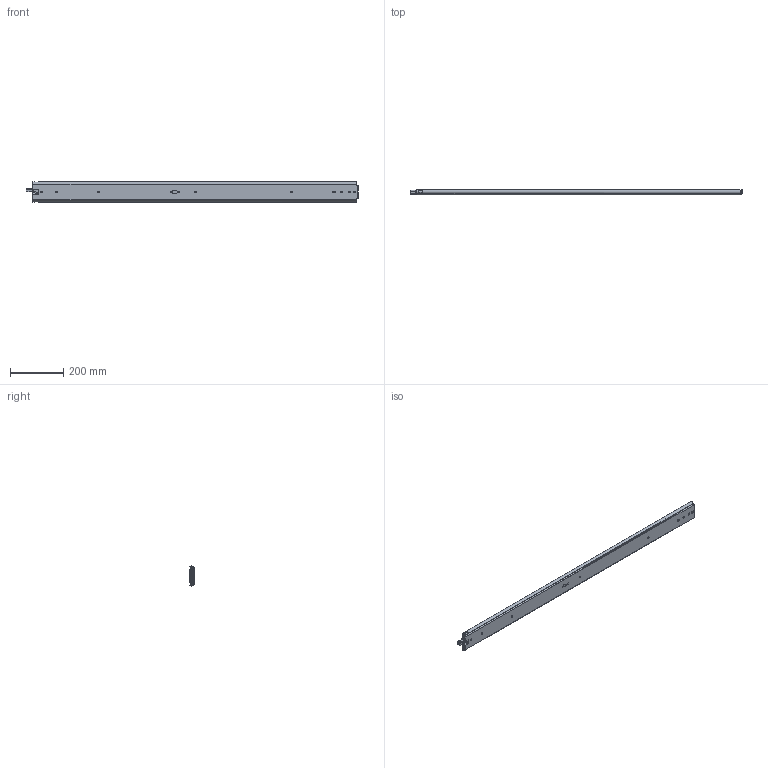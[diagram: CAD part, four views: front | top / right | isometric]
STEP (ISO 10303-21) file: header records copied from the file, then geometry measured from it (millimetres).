
FILE_DESCRIPTION((''),'2;1');
FILE_NAME('DG-76-3S-48YOU_ASM','2023-05-11T',('jishu015'),(''),'PRO/ENGINEER BY PARAMETRIC TECHNOLOGY CORPORATION, 2010280','PRO/ENGINEER BY PARAMETRIC TECHNOLOGY CORPORATION, 2010280','');
FILE_SCHEMA(('CONFIG_CONTROL_DESIGN'));
Products named in the file (29): KP-76-04WAIKE-1816____________; 1076-WAIKEZIDANJIAO1621_; WAIK16_____________ASM; 1076XIAOZHUTIAO-2251621_; 16____________; 1076XIAOZHUTIAO-1751621__ASM; KP-76-04ZHONGGUI181621; 76CHANGGUIZHONGGUIJIAO1621____; 3X6WODIN16____________; ZHONGGUIBAIKOU16____________; PJ-76-30___________; PJ-76-03___________; 76-XIAOZHUJIA-11___________; GANGZHU-XIAO___________; ZHUJIA-XIAO____________ASM; ZHONGGUI6_____________ASM; KP-76-04NEIGUI1816____________; PJ-76-31___________; DAOGPIAN16____________; 1053-3SBANJ01___________; JIAO-11___________; 76XINSUOKOU___________; PJ-338___________; PJ-356___________; PJ-357___________; PJ-336___________; M4X4___________; NEIGUI16_____________ASM; DG-76-3S-48YOU_ASM
Assembly tree (95 placements, depth 4):
  DG-76-3S-48YOU_ASM
    WAIK16_____________ASM
      KP-76-04WAIKE-1816____________
      1076-WAIKEZIDANJIAO1621_  x2
    1076XIAOZHUTIAO-1751621__ASM  x2
      1076XIAOZHUTIAO-2251621_
      16____________
    ZHONGGUI6_____________ASM
      KP-76-04ZHONGGUI181621
      76CHANGGUIZHONGGUIJIAO1621____
      3X6WODIN16____________
      ZHONGGUIBAIKOU16____________
      PJ-76-30___________
      PJ-76-03___________
      ZHUJIA-XIAO____________ASM
        76-XIAOZHUJIA-11___________
        GANGZHU-XIAO___________  x46
    NEIGUI16_____________ASM
      KP-76-04NEIGUI1816____________
      PJ-76-31___________
      DAOGPIAN16____________
      1053-3SBANJ01___________
      JIAO-11___________
      76XINSUOKOU___________
      PJ-338___________
      PJ-356___________
      PJ-357___________
      PJ-336___________
      M4X4___________
Bounding box: 1245.12 x 20.7 x 75.3 mm (x, y, z)
Volume: 802687 mm3; surface area: 774392.8 mm2
Topology: 112 solids, 112 shells, 2679 faces, 8185 edges, 5165 vertices
Faces by surface type: plane 1382, cylinder 987, sphere 183, bspline 60, cone 28, extrusion 23, torus 16
Entity records: 85938 total; most frequent: CARTESIAN_POINT 22805, ORIENTED_EDGE 13890, DIRECTION 12453, EDGE_CURVE 6945, VERTEX_POINT 4525, AXIS2_PLACEMENT_3D 4310, VECTOR 3833, LINE 3810
